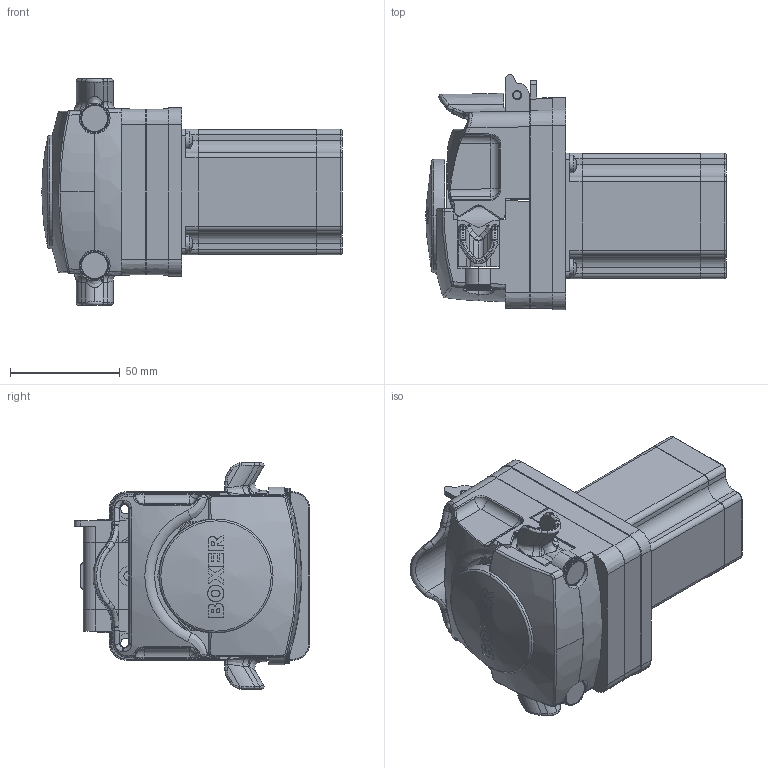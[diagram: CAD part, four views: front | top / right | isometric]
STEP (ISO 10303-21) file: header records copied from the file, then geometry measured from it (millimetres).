
FILE_DESCRIPTION (( 'STEP AP203' ), '1' );
FILE_NAME ('25K.STEP', '2016-10-13T17:52:59', ( '' ), ( '' ), 'SwSTEP 2.0', 'SolidWorks 2014', '' );
FILE_SCHEMA (( 'CONFIG_CONTROL_DESIGN' ));
Length unit declared in the file: millimetre
Products named in the file (1): 25K
Bounding box: 136.6 x 107.28 x 103 mm (x, y, z)
Surface area: 88053.2 mm2 (no closed solid volume)
Topology: 0 solids, 41 shells, 1105 faces, 4221 edges, 3117 vertices
Faces by surface type: plane 390, cylinder 239, bspline 215, cone 142, torus 89, sphere 30
Entity records: 52693 total; most frequent: CARTESIAN_POINT 20117, ORIENTED_EDGE 6543, DIRECTION 6182, EDGE_CURVE 4220, VERTEX_POINT 3117, AXIS2_PLACEMENT_3D 2248, LINE 1686, VECTOR 1686
